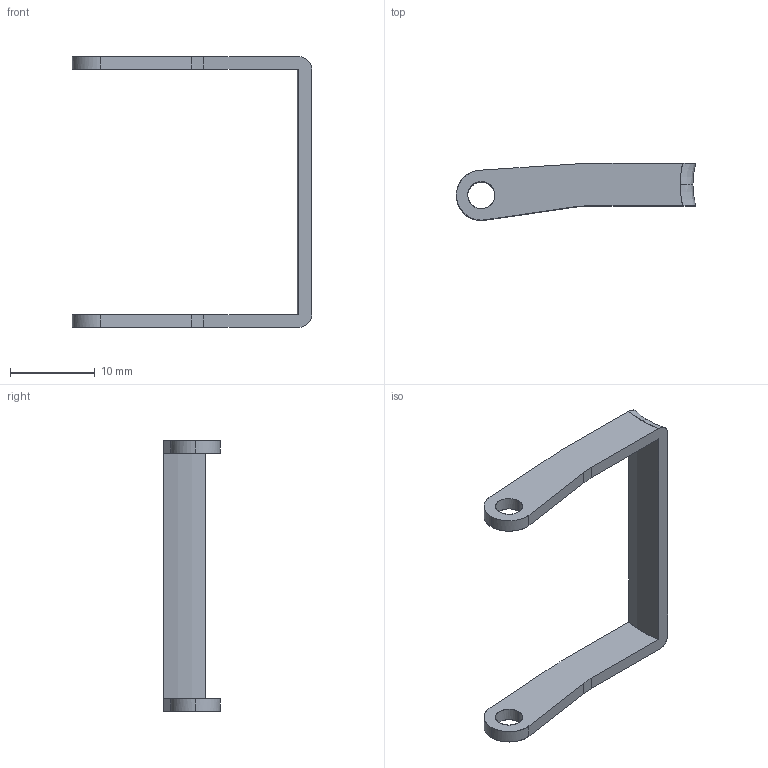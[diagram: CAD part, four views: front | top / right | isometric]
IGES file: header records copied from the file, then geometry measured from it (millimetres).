
Start section: SolidWorks IGES FILE using analytic representation for surfaces
Global section: file name: C:\Documents and Settings\lecoutey\Bureau\GP 2013\1086.030.10.IGS; native system: SolidWorks 2004 by SolidWorks Corporation; preprocessor: Version 5.3; author: lecoutey; date: 050329.162053; units: millimetre
Bounding box: 28.27 x 6.7 x 32 mm (x, y, z)
Surface area: 1130.5 mm2 (no closed solid volume)
Topology: 0 solids, 0 shells, 29 faces, 384 edges, 384 vertices
Faces by surface type: revolution 15, bspline 14
